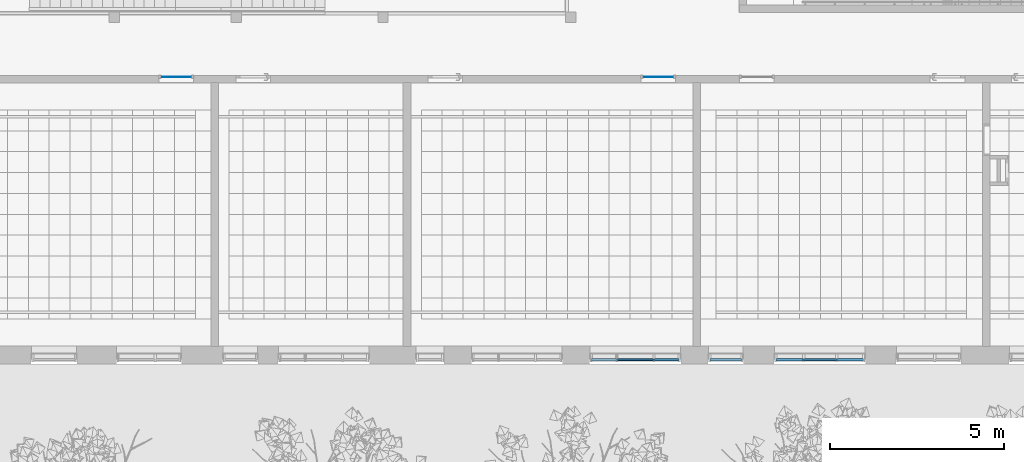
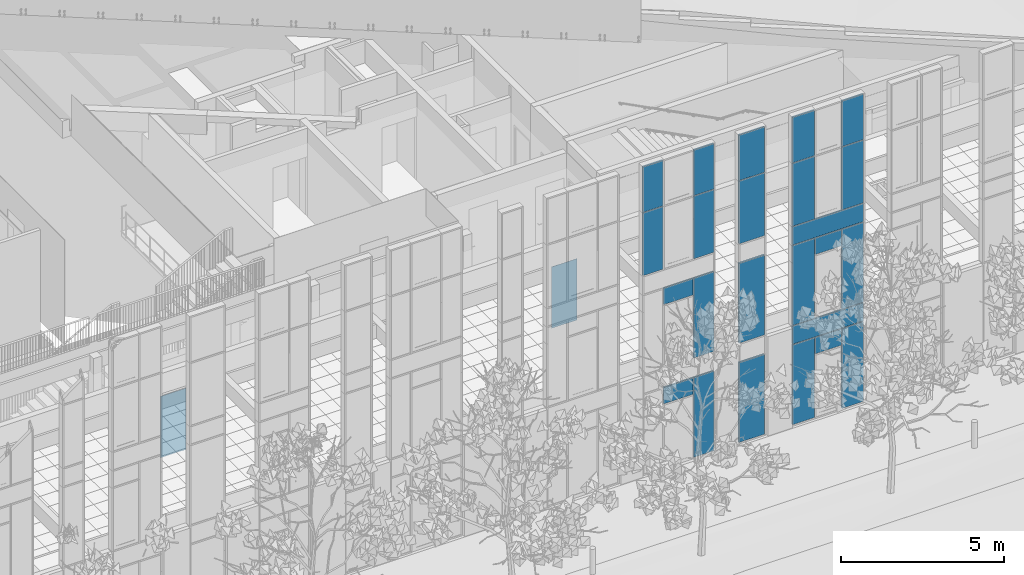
# One storey, part 54 of 246: 26 plates, 5 elements without a shape of their own.
"""IFC2X3 building model written with IfcOpenShell, lengths in millimetres."""

from ifc_helpers import new_model, entity, si_unit, converted_unit, derived_unit, money_unit, direction, frame, origin_with_axes, place, context, subcontext, project, spatial, faceted_brep, source, transform, mapped, material, type_object, element, aggregate, save


model = new_model("IFC2X3")

# Units and contexts
model_context = context("Model", 3, precision=0.01, world=origin_with_axes(), true_north=direction((0.0, 1.0)))
body_context = subcontext(model_context, "Body", "Model", "MODEL_VIEW")
ifc_project = project(units=[si_unit("LENGTHUNIT", "METRE", prefix="MILLI"), si_unit("AREAUNIT", "SQUARE_METRE"), si_unit("VOLUMEUNIT", "CUBIC_METRE"), converted_unit("PLANEANGLEUNIT", "DEGREE", entity("IfcPlaneAngleMeasure", 0.0174532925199), si_unit("PLANEANGLEUNIT", "RADIAN"), dimensions=[0, 0, 0, 0, 0, 0, 0]), si_unit("SOLIDANGLEUNIT", "STERADIAN"), money_unit("EUR"), converted_unit("TIMEUNIT", "Year", entity("IfcTimeMeasure", 31556926.0), si_unit("TIMEUNIT", "SECOND"), dimensions=[0, 0, 1, 0, 0, 0, 0]), si_unit("MASSUNIT", "GRAM", prefix="KILO"), si_unit("THERMODYNAMICTEMPERATUREUNIT", "DEGREE_CELSIUS"), si_unit("LUMINOUSINTENSITYUNIT", "LUMEN"), si_unit("ENERGYUNIT", "JOULE", prefix="MEGA"), derived_unit("THERMALCONDUCTANCEUNIT", [(si_unit("POWERUNIT", "WATT"), 1), (si_unit("LENGTHUNIT", "METRE"), -1), (si_unit("THERMODYNAMICTEMPERATUREUNIT", "KELVIN"), -1)]), derived_unit("SPECIFICHEATCAPACITYUNIT", [(si_unit("ENERGYUNIT", "JOULE"), 1), (si_unit("MASSUNIT", "GRAM", prefix="KILO"), -1), (si_unit("THERMODYNAMICTEMPERATUREUNIT", "KELVIN"), -1)]), derived_unit("MASSDENSITYUNIT", [(si_unit("MASSUNIT", "GRAM", prefix="KILO"), 1), (si_unit("VOLUMEUNIT", "CUBIC_METRE"), -1)])], contexts=[model_context])

# Site, building, storey
site_placement = place(None, origin_with_axes())
site = spatial("IfcSite", under=ifc_project, at=site_placement, Name="L.Koidula tn 11b", CompositionType="ELEMENT")
building_placement = place(site_placement, origin_with_axes())
building = spatial("IfcBuilding", under=site, at=building_placement, Name="Rakvere Riigigümnaasium", CompositionType="ELEMENT")
storey_placement = place(building_placement, origin_with_axes())
storey = spatial("IfcBuildingStorey", under=building, at=storey_placement, Name="1.korrus 0,00", CompositionType="ELEMENT", Elevation=0.0)

# Curtain wall, plates
curtain_wall_type = type_object("IfcCurtainWallType", Name="Curtain Wall Type", PredefinedType="NOTDEFINED")
curtain_wall_1_placement = place(storey_placement, frame((78309.9973345, 5111.43278481, -1.61944633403e-05), z_axis=(0.0, 0.0, 1.0), x_axis=(1.0, 0.0, 0.0)))
curtain_wall_1 = element("IfcCurtainWall", 1, at=curtain_wall_1_placement, inside=storey, type_object=curtain_wall_type, Name="KLF-05-3A")
ifc_material_1 = material(Name="Klaaspakett 3x ribikardinatega")
plate_type_1 = type_object("IfcPlateType", Name="Distinct Panel 926 x 616 x 65", PredefinedType="CURTAIN_PANEL")
shared_shape_1 = source(origin_with_axes(), body_context, "Body", "Brep", [
    faceted_brep([(938.00000149, 628.000002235, -32.5), (11.9999985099, 628.000002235, -32.5), (11.9999985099, 628.000002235, 32.5), (938.00000149, 628.000002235, 32.5), (938.00000149, 11.9999985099, -32.5), (11.9999985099, 11.9999985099, -32.5), (11.9999985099, 11.9999985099, 32.5), (938.00000149, 11.9999985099, 32.5)], [[[0, 1, 2, 3]], [[0, 4, 5, 1]], [[1, 5, 6, 2]], [[3, 2, 6, 7]], [[4, 0, 3, 7]], [[5, 4, 7, 6]]]),
])
plate_1_placement = place(curtain_wall_1_placement, frame((0.0, 0.0, 2720.0), z_axis=(0.0, 0.0, 1.0), x_axis=(-0.999999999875, 1.58166009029e-05, 0.0)))
plate_1 = element("IfcPlate", 2, at=plate_1_placement, type_object=plate_type_1, material=ifc_material_1, Name="KLF-05-3A-Klaasid", ObjectType="CURTAIN_PANEL", context=body_context, shape_type="MappedRepresentation", body=[
    mapped(shared_shape_1, transform((475.0, 0.0, -320.0), x_axis=(-1.0, 0.0, 0.0), y_axis=(0.0, 0.0, 1.0), z_axis=(0.0, 1.0, 0.0))),
])
plate_2_placement = place(curtain_wall_1_placement, frame((0.0, 0.0, 6440.0), z_axis=(0.0, 0.0, 1.0), x_axis=(-0.999999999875, 1.58166009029e-05, 0.0)))
plate_2 = element("IfcPlate", 3, at=plate_2_placement, type_object=plate_type_1, material=ifc_material_1, Name="KLF-05-3A-Klaasid", ObjectType="CURTAIN_PANEL", context=body_context, shape_type="MappedRepresentation", body=[
    mapped(shared_shape_1, transform((475.0, 0.0, -320.0), x_axis=(-1.0, 0.0, 0.0), y_axis=(0.0, 0.0, 1.0), z_axis=(0.0, 1.0, 0.0))),
])
ifc_material_2 = material(Name="Klaaspakett- taustvärvitud klaas 3x")
plate_type_2 = type_object("IfcPlateType", Name="788 x 681 x 54", PredefinedType="CURTAIN_PANEL")
shared_shape_2 = source(origin_with_axes(), body_context, "Body", "Brep", [
    faceted_brep([(2542.99946897, 693.000015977, -27.0), (1775.00001496, 693.000015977, -27.0), (1775.00001496, 693.000015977, 27.0), (2542.99946897, 693.000015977, 27.0), (2542.99946897, 11.9999992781, -27.0), (1775.00001496, 11.9999992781, -27.0), (825.000008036, 11.9999992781, -27.0), (36.9999913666, 11.9999992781, -27.0), (36.9999913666, 693.000015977, -27.0), (825.000008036, 693.000015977, -27.0), (825.000008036, 693.000015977, 27.0), (36.9999913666, 693.000015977, 27.0), (36.9999913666, 11.9999992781, 27.0), (825.000008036, 11.9999992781, 27.0), (1775.00001496, 11.9999992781, 27.0), (2542.99946897, 11.9999992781, 27.0)], [[[0, 1, 2, 3]], [[0, 4, 5, 6, 7, 8, 9, 1]], [[1, 9, 10, 2]], [[3, 2, 10, 11, 12, 13, 14, 15]], [[4, 0, 3, 15]], [[5, 4, 15, 14]], [[6, 5, 14, 13]], [[7, 6, 13, 12]], [[8, 7, 12, 11]], [[9, 8, 11, 10]]]),
])
plate_3_placement = place(curtain_wall_1_placement, frame((-5.00013491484, 7.90851375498e-05, 7112.5), z_axis=(0.0, 0.0, 1.0), x_axis=(-0.999999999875, 1.58166009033e-05, 0.0)))
plate_3 = element("IfcPlate", 4, at=plate_3_placement, type_object=plate_type_2, material=ifc_material_2, Name="KLF-05-3A-Klaasid", ObjectType="CURTAIN_PANEL", context=body_context, shape_type="MappedRepresentation", body=[
    mapped(shared_shape_2, transform((1294.99986508, 0.0, -352.5), x_axis=(-1.0, 0.0, 0.0), y_axis=(0.0, 0.0, 1.0), z_axis=(0.0, 1.0, 0.0))),
])
plate_4_placement = place(curtain_wall_1_placement, frame((-5.00013491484, 7.90851375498e-05, 3392.5), z_axis=(0.0, 0.0, 1.0), x_axis=(-0.999999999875, 1.58166009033e-05, 0.0)))
plate_4 = element("IfcPlate", 5, at=plate_4_placement, type_object=plate_type_2, material=ifc_material_2, Name="KLF-05-3A-Klaasid", ObjectType="CURTAIN_PANEL", context=body_context, shape_type="MappedRepresentation", body=[
    mapped(shared_shape_2, transform((1294.99986508, 0.0, -352.5), x_axis=(-1.0, 0.0, 0.0), y_axis=(0.0, 0.0, 1.0), z_axis=(0.0, 1.0, 0.0))),
])

curtain_wall_2_placement = place(storey_placement, frame((72896.908541, 5111.45334637, -8.09717227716e-06), z_axis=(0.0, 0.0, 1.0), x_axis=(1.0, 0.0, 0.0)))
curtain_wall_2 = element("IfcCurtainWall", 6, at=curtain_wall_2_placement, inside=storey, type_object=curtain_wall_type, Name="KLF-05-3B")
plate_type_3 = type_object("IfcPlateType", Name="8 x 616 x 54", PredefinedType="CURTAIN_PANEL")
shared_shape_3 = source(origin_with_axes(), body_context, "Body", "Brep", [
    faceted_brep([(1058.00000089, 628.000001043, -27.0), (19.5432752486, 628.000001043, -27.0), (19.5432752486, 628.000001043, 27.0), (1058.00000089, 628.000001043, 27.0), (1058.00000089, 11.9999991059, -27.0), (19.5432752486, 11.9999991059, -27.0), (11.9999991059, 11.9999991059, -27.0), (11.9999991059, 628.000001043, -27.0), (11.9999991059, 628.000001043, 27.0), (11.9999991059, 11.9999991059, 27.0), (19.5432752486, 11.9999991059, 27.0), (1058.00000089, 11.9999991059, 27.0)], [[[0, 1, 2, 3]], [[0, 4, 5, 6, 7, 1]], [[1, 7, 8, 2]], [[3, 2, 8, 9, 10, 11]], [[4, 0, 3, 11]], [[5, 4, 11, 10]], [[6, 5, 10, 9]], [[7, 6, 9, 8]]]),
])
plate_5_placement = place(curtain_wall_2_placement, frame((-68.7275395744, 0.0, 2720.0), z_axis=(0.0, 0.0, 1.0), x_axis=(-1.0, 0.0, 0.0)))
plate_5 = element("IfcPlate", 7, at=plate_5_placement, type_object=plate_type_3, material=ifc_material_1, Name="KLF-58", ObjectType="CURTAIN_PANEL", context=body_context, shape_type="MappedRepresentation", body=[
    mapped(shared_shape_3, transform((363.181089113, 0.0, -320.0), x_axis=(-1.0, 0.0, 0.0), y_axis=(0.0, 0.0, 1.0), z_axis=(0.0, 1.0, 0.0))),
])
plate_6_placement = place(curtain_wall_2_placement, frame((-68.7275395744, 0.0, 6440.0), z_axis=(0.0, 0.0, 1.0), x_axis=(-1.0, 0.0, 0.0)))
plate_6 = element("IfcPlate", 8, at=plate_6_placement, type_object=plate_type_3, material=ifc_material_1, Name="KLF-71", ObjectType="CURTAIN_PANEL", context=body_context, shape_type="MappedRepresentation", body=[
    mapped(shared_shape_3, transform((363.181089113, 0.0, -320.0), x_axis=(-1.0, 0.0, 0.0), y_axis=(0.0, 0.0, 1.0), z_axis=(0.0, 1.0, 0.0))),
])

# Plate
plate_type_4 = type_object("IfcPlateType", Name="Distinct Panel 776 x 2351 x 65", PredefinedType="CURTAIN_PANEL")
shared_shape_4 = source(origin_with_axes(), body_context, "Body", "Brep", [
    faceted_brep([(813.000005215, 2363.00000149, -32.5), (36.9999836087, 2363.00000149, -32.5), (36.9999836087, 2363.00000149, 32.5), (813.000005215, 2363.00000149, 32.5), (813.000005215, 11.9999985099, -32.5), (36.9999836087, 11.9999985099, -32.5), (36.9999836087, 11.9999985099, 32.5), (813.000005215, 11.9999985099, 32.5)], [[[0, 1, 2, 3]], [[0, 4, 5, 1]], [[1, 5, 6, 2]], [[3, 2, 6, 7]], [[4, 0, 3, 7]], [[5, 4, 7, 6]]]),
])
plate_7_placement = place(curtain_wall_1_placement, frame((-887.499999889, 0.0140372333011, 8652.5), z_axis=(0.0, 0.0, 1.0), x_axis=(-0.999999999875, 1.58166009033e-05, 0.0)))
plate_7 = element("IfcPlate", 9, at=plate_7_placement, type_object=plate_type_4, material=ifc_material_1, Name="KLF-05-3A-Klaasid", ObjectType="CURTAIN_PANEL", context=body_context, shape_type="MappedRepresentation", body=[
    mapped(shared_shape_4, transform((412.5, 0.0, -1187.5), x_axis=(-1.0, 0.0, 0.0), y_axis=(0.0, 0.0, 1.0), z_axis=(0.0, 1.0, 0.0))),
])

plate_type_5 = type_object("IfcPlateType", Name="Distinct Panel 776 x 628 x 65", PredefinedType="CURTAIN_PANEL")
shared_shape_5 = source(origin_with_axes(), body_context, "Body", "Brep", [
    faceted_brep([(813.000010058, 3002.99998659, -32.5), (36.999981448, 3002.99998659, -32.5), (36.999981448, 3002.99998659, 32.5), (813.000010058, 3002.99998659, 32.5), (813.000010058, 2375.00001855, -32.5), (813.000010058, 12.0000134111, -32.5), (36.999981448, 12.0000134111, -32.5), (36.999981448, 2375.00001855, -32.5), (36.999981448, 2375.00001855, 32.5), (36.999981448, 12.0000134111, 32.5), (813.000010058, 12.0000134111, 32.5), (813.000010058, 2375.00001855, 32.5)], [[[0, 1, 2, 3]], [[0, 4, 5, 6, 7, 1]], [[1, 7, 8, 2]], [[3, 2, 8, 9, 10, 11]], [[4, 0, 3, 11]], [[5, 4, 11, 10]], [[6, 5, 10, 9]], [[7, 6, 9, 8]]]),
])
plate_8_placement = place(curtain_wall_1_placement, frame((-887.499999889, 0.0140372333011, 5541.66666667), z_axis=(0.0, 0.0, 1.0), x_axis=(-0.999999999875, 1.58166009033e-05, 0.0)))
plate_8 = element("IfcPlate", 10, at=plate_8_placement, type_object=plate_type_5, material=ifc_material_1, Name="KLF-05-3A-Klaasid", ObjectType="CURTAIN_PANEL", context=body_context, shape_type="MappedRepresentation", body=[
    mapped(shared_shape_5, transform((412.5, 0.0, -1796.66666667), x_axis=(-1.0, 0.0, 0.0), y_axis=(0.0, 0.0, 1.0), z_axis=(0.0, 1.0, 0.0))),
])

plate_type_6 = type_object("IfcPlateType", Name="Distinct Panel 756 x 628 x 65", PredefinedType="CURTAIN_PANEL")
shared_shape_6 = source(origin_with_axes(), body_context, "Body", "Brep", [
    faceted_brep([(767.999465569, 3002.99998659, -32.5), (12.0000134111, 3002.99998659, -32.5), (12.0000134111, 3002.99998659, 32.5), (767.999465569, 3002.99998659, 32.5), (767.999465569, 2375.00001855, -32.5), (767.999465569, 12.0000134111, -32.5), (12.0000134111, 12.0000134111, -32.5), (12.0000134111, 2375.00001855, -32.5), (12.0000134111, 2375.00001855, 32.5), (12.0000134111, 12.0000134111, 32.5), (767.999465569, 12.0000134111, 32.5), (767.999465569, 2375.00001855, 32.5)], [[[0, 1, 2, 3]], [[0, 4, 5, 6, 7, 1]], [[1, 7, 8, 2]], [[3, 2, 8, 9, 10, 11]], [[4, 0, 3, 11]], [[5, 4, 11, 10]], [[6, 5, 10, 9]], [[7, 6, 9, 8]]]),
])
plate_9_placement = place(curtain_wall_1_placement, frame((877.499730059, -0.0138790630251, 5541.66666667), z_axis=(0.0, 0.0, 1.0), x_axis=(-0.999999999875, 1.58166009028e-05, 0.0)))
plate_9 = element("IfcPlate", 11, at=plate_9_placement, type_object=plate_type_6, material=ifc_material_1, Name="KLF-05-3A-Klaasid", ObjectType="CURTAIN_PANEL", context=body_context, shape_type="MappedRepresentation", body=[
    mapped(shared_shape_6, transform((402.499730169, 0.0, -1796.66666667), x_axis=(-1.0, 0.0, 0.0), y_axis=(0.0, 0.0, 1.0), z_axis=(0.0, 1.0, 0.0))),
])

shared_shape_7 = source(origin_with_axes(), body_context, "Body", "Brep", [
    faceted_brep([(813.000002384, 3028.00000715, -32.5), (37.0000119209, 3028.00000715, -32.5), (37.0000119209, 3028.00000715, 32.5), (813.000002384, 3028.00000715, 32.5), (813.000002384, 2400.00001907, -32.5), (813.000002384, 37.0000119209, -32.5), (37.0000119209, 37.0000119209, -32.5), (37.0000119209, 2400.00001907, -32.5), (37.0000119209, 2400.00001907, 32.5), (37.0000119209, 37.0000119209, 32.5), (813.000002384, 37.0000119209, 32.5), (813.000002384, 2400.00001907, 32.5)], [[[0, 1, 2, 3]], [[0, 4, 5, 6, 7, 1]], [[1, 7, 8, 2]], [[3, 2, 8, 9, 10, 11]], [[4, 0, 3, 11]], [[5, 4, 11, 10]], [[6, 5, 10, 9]], [[7, 6, 9, 8]]]),
])
plate_10_placement = place(curtain_wall_1_placement, frame((-887.499999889, 0.0140372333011, 1813.33333333), z_axis=(0.0, 0.0, 1.0), x_axis=(-0.999999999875, 1.58166009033e-05, 0.0)))
plate_10 = element("IfcPlate", 12, at=plate_10_placement, type_object=plate_type_5, material=ifc_material_1, Name="KLF-05-3A-Klaasid", ObjectType="CURTAIN_PANEL", context=body_context, shape_type="MappedRepresentation", body=[
    mapped(shared_shape_7, transform((412.5, 0.0, -1813.33333333), x_axis=(-1.0, 0.0, 0.0), y_axis=(0.0, 0.0, 1.0), z_axis=(0.0, 1.0, 0.0))),
])

shared_shape_8 = source(origin_with_axes(), body_context, "Body", "Brep", [
    faceted_brep([(767.999451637, 3028.00000715, -32.5), (11.9999928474, 3028.00000715, -32.5), (11.9999928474, 3028.00000715, 32.5), (767.999451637, 3028.00000715, 32.5), (767.999451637, 2400.00001907, -32.5), (767.999451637, 37.0000119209, -32.5), (11.9999928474, 37.0000119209, -32.5), (11.9999928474, 2400.00001907, -32.5), (11.9999928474, 2400.00001907, 32.5), (11.9999928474, 37.0000119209, 32.5), (767.999451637, 37.0000119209, 32.5), (767.999451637, 2400.00001907, 32.5)], [[[0, 1, 2, 3]], [[0, 4, 5, 6, 7, 1]], [[1, 7, 8, 2]], [[3, 2, 8, 9, 10, 11]], [[4, 0, 3, 11]], [[5, 4, 11, 10]], [[6, 5, 10, 9]], [[7, 6, 9, 8]]]),
])
plate_11_placement = place(curtain_wall_1_placement, frame((877.499730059, -0.0138790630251, 1813.33333333), z_axis=(0.0, 0.0, 1.0), x_axis=(-0.999999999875, 1.58166009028e-05, 0.0)))
plate_11 = element("IfcPlate", 13, at=plate_11_placement, type_object=plate_type_6, material=ifc_material_1, Name="KLF-05-3A-Klaasid", ObjectType="CURTAIN_PANEL", context=body_context, shape_type="MappedRepresentation", body=[
    mapped(shared_shape_8, transform((402.499730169, 0.0, -1813.33333333), x_axis=(-1.0, 0.0, 0.0), y_axis=(0.0, 0.0, 1.0), z_axis=(0.0, 1.0, 0.0))),
])

plate_type_7 = type_object("IfcPlateType", Name="Distinct Panel 756 x 2351 x 65", PredefinedType="CURTAIN_PANEL")
shared_shape_9 = source(origin_with_axes(), body_context, "Body", "Brep", [
    faceted_brep([(767.999479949, 2363.00000149, -32.5), (11.9999985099, 2363.00000149, -32.5), (11.9999985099, 2363.00000149, 32.5), (767.999479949, 2363.00000149, 32.5), (767.999444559, 11.9999985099, -32.5), (11.9999985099, 11.9999985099, -32.5), (11.9999985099, 11.9999985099, 32.5), (767.999444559, 11.9999985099, 32.5)], [[[0, 1, 2, 3]], [[0, 4, 5, 1]], [[1, 5, 6, 2]], [[3, 2, 6, 7]], [[4, 0, 3, 7]], [[5, 4, 7, 6]]]),
])
plate_12_placement = place(curtain_wall_1_placement, frame((877.499731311, -0.0138790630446, 8652.5), z_axis=(0.0, 0.0, 1.0), x_axis=(-0.999999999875, 1.58166009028e-05, 0.0)))
plate_12 = element("IfcPlate", 14, at=plate_12_placement, type_object=plate_type_7, material=ifc_material_1, Name="KLF-05-4A-Klaasid", ObjectType="CURTAIN_PANEL", context=body_context, shape_type="MappedRepresentation", body=[
    mapped(shared_shape_9, transform((402.499731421, 0.0, -1187.5), x_axis=(-1.0, 0.0, 0.0), y_axis=(0.0, 0.0, 1.0), z_axis=(0.0, 1.0, 0.0))),
])

plate_type_8 = type_object("IfcPlateType", Name="Distinct Panel 756 x 1701 x 65", PredefinedType="CURTAIN_PANEL")
shared_shape_10 = source(origin_with_axes(), body_context, "Body", "Brep", [
    faceted_brep([(767.999542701, 1713.0000343, -32.5), (12.0000099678, 1713.0000343, -32.5), (12.0000099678, 1713.0000343, 32.5), (767.999542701, 1713.0000343, 32.5), (767.99946447, 12.0000099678, -32.5), (12.0000099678, 12.0000099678, -32.5), (12.0000099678, 12.0000099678, 32.5), (767.99946447, 12.0000099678, 32.5)], [[[0, 1, 2, 3]], [[0, 4, 5, 1]], [[1, 5, 6, 2]], [[3, 2, 6, 7]], [[4, 0, 3, 7]], [[5, 4, 7, 6]]]),
])
plate_13_placement = place(curtain_wall_1_placement, frame((877.499749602, -0.0138790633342, 10715.0000206), z_axis=(0.0, 0.0, 1.0), x_axis=(-0.999999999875, 1.58166009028e-05, 0.0)))
plate_13 = element("IfcPlate", 15, at=plate_13_placement, type_object=plate_type_8, material=ifc_material_1, Name="KLF-05-8A-Klaasid", ObjectType="CURTAIN_PANEL", context=body_context, shape_type="MappedRepresentation", body=[
    mapped(shared_shape_10, transform((402.499749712, 0.0, -875.000020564), x_axis=(-1.0, 0.0, 0.0), y_axis=(0.0, 0.0, 1.0), z_axis=(0.0, 1.0, 0.0))),
])

plate_type_9 = type_object("IfcPlateType", Name="Distinct Panel 776 x 1701 x 65", PredefinedType="CURTAIN_PANEL")
shared_shape_11 = source(origin_with_axes(), body_context, "Body", "Brep", [
    faceted_brep([(812.999990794, 1713.0000343, -32.5), (37.00000683, 1713.0000343, -32.5), (37.00000683, 1713.0000343, 32.5), (812.999990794, 1713.0000343, 32.5), (812.999990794, 12.0000099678, -32.5), (37.00000683, 12.0000099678, -32.5), (37.00000683, 12.0000099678, 32.5), (812.999990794, 12.0000099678, 32.5)], [[[0, 1, 2, 3]], [[0, 4, 5, 1]], [[1, 5, 6, 2]], [[3, 2, 6, 7]], [[4, 0, 3, 7]], [[5, 4, 7, 6]]]),
])
plate_14_placement = place(curtain_wall_1_placement, frame((-887.499999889, 0.0140372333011, 10715.0000206), z_axis=(0.0, 0.0, 1.0), x_axis=(-0.999999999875, 1.58166009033e-05, 0.0)))
plate_14 = element("IfcPlate", 16, at=plate_14_placement, type_object=plate_type_9, material=ifc_material_1, Name="KLF-05-0A-Klaasid", ObjectType="CURTAIN_PANEL", context=body_context, shape_type="MappedRepresentation", body=[
    mapped(shared_shape_11, transform((412.5, 0.0, -875.000020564), x_axis=(-1.0, 0.0, 0.0), y_axis=(0.0, 0.0, 1.0), z_axis=(0.0, 1.0, 0.0))),
])

aggregate(curtain_wall_1, [plate_1, plate_3, plate_2, plate_4, plate_7, plate_8, plate_9, plate_10, plate_11, plate_12, plate_13, plate_14])

ifc_material_3 = material(Name="Klaaspakett 3x")
plate_type_10 = type_object("IfcPlateType", Name="Distinct Panel 706 x 828 x 65", PredefinedType="CURTAIN_PANEL")
shared_shape_12 = source(origin_with_axes(), body_context, "Body", "Brep", [
    faceted_brep([(717.999934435, 2363.00000149, -32.5), (11.9999985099, 2363.00000149, -32.5), (11.9999985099, 2363.00000149, 32.5), (717.999934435, 2363.00000149, 32.5), (717.999969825, 11.9999985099, -32.5), (11.9999985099, 11.9999985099, -32.5), (11.9999985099, 1534.99999814, -32.5), (11.9999985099, 1534.99999814, 32.5), (11.9999985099, 11.9999985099, 32.5), (717.999969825, 11.9999985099, 32.5)], [[[0, 1, 2, 3]], [[0, 4, 5, 6, 1]], [[1, 6, 7, 2]], [[3, 2, 7, 8, 9]], [[4, 0, 3, 9]], [[5, 4, 9, 8]], [[6, 5, 8, 7]]]),
])
plate_15_placement = place(curtain_wall_2_placement, frame((940.091351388, 0.0, 8722.0), z_axis=(0.0, 0.0, 1.0), x_axis=(-1.0, 0.0, 0.0)))
plate_15 = element("IfcPlate", 17, at=plate_15_placement, type_object=plate_type_10, material=ifc_material_3, Name="KLF-05-2A-Klaasid", ObjectType="CURTAIN_PANEL", context=body_context, shape_type="MappedRepresentation", body=[
    mapped(shared_shape_12, transform((301.999980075, 0.0, -1257.0), x_axis=(-1.0, 0.0, 0.0), y_axis=(0.0, 0.0, 1.0), z_axis=(0.0, 1.0, 0.0))),
])

plate_type_11 = type_object("IfcPlateType", Name="706 x 628 x 54", PredefinedType="CURTAIN_PANEL")
shared_shape_13 = source(origin_with_axes(), body_context, "Body", "Brep", [
    faceted_brep([(717.999957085, 3028.00000715, -27.0), (11.9999928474, 3028.00000715, -27.0), (11.9999928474, 3028.00000715, 27.0), (717.999957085, 3028.00000715, 27.0), (717.999911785, 2400.00001907, -27.0), (717.999957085, 37.0000119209, -27.0), (11.9999928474, 37.0000119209, -27.0), (11.9999928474, 2400.00001907, -27.0), (11.9999928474, 2400.00001907, 27.0), (11.9999928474, 37.0000119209, 27.0), (717.999957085, 37.0000119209, 27.0), (717.999911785, 2400.00001907, 27.0)], [[[0, 1, 2, 3]], [[0, 4, 5, 6, 7, 1]], [[1, 7, 8, 2]], [[3, 2, 8, 9, 10, 11]], [[4, 0, 3, 11]], [[5, 4, 11, 10]], [[6, 5, 10, 9]], [[7, 6, 9, 8]]]),
])
plate_16_placement = place(curtain_wall_2_placement, frame((1015.59134147, 0.0, 1813.33333333), z_axis=(0.0, 0.0, 1.0), x_axis=(-1.0, 0.0, 0.0)))
plate_16 = element("IfcPlate", 18, at=plate_16_placement, type_object=plate_type_11, material=ifc_material_1, Name="KLF-59", ObjectType="CURTAIN_PANEL", context=body_context, shape_type="MappedRepresentation", body=[
    mapped(shared_shape_13, transform((377.499970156, 0.0, -1813.33333333), x_axis=(-1.0, 0.0, 0.0), y_axis=(0.0, 0.0, 1.0), z_axis=(0.0, 1.0, 0.0))),
])

shared_shape_14 = source(origin_with_axes(), body_context, "Body", "Brep", [
    faceted_brep([(717.999978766, 3002.99998659, -27.0), (12.0000134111, 3002.99998659, -27.0), (12.0000134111, 3002.99998659, 27.0), (717.999978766, 3002.99998659, 27.0), (717.999888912, 2375.00001855, -27.0), (717.999978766, 12.0000134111, -27.0), (12.0000134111, 12.0000134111, -27.0), (12.0000134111, 2375.00001855, -27.0), (12.0000134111, 2375.00001855, 27.0), (12.0000134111, 12.0000134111, 27.0), (717.999978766, 12.0000134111, 27.0), (717.999888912, 2375.00001855, 27.0)], [[[0, 1, 2, 3]], [[0, 4, 5, 6, 7, 1]], [[1, 7, 8, 2]], [[3, 2, 8, 9, 10, 11]], [[4, 0, 3, 11]], [[5, 4, 11, 10]], [[6, 5, 10, 9]], [[7, 6, 9, 8]]]),
])
plate_17_placement = place(curtain_wall_2_placement, frame((1015.59134147, 0.0, 5541.66666667), z_axis=(0.0, 0.0, 1.0), x_axis=(-1.0, 0.0, 0.0)))
plate_17 = element("IfcPlate", 19, at=plate_17_placement, type_object=plate_type_11, material=ifc_material_1, Name="KLF-63", ObjectType="CURTAIN_PANEL", context=body_context, shape_type="MappedRepresentation", body=[
    mapped(shared_shape_14, transform((377.499970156, 0.0, -1796.66666667), x_axis=(-1.0, 0.0, 0.0), y_axis=(0.0, 0.0, 1.0), z_axis=(0.0, 1.0, 0.0))),
])

plate_type_12 = type_object("IfcPlateType", Name="Distinct Panel 706 x 1701 x 65", PredefinedType="CURTAIN_PANEL")
shared_shape_15 = source(origin_with_axes(), body_context, "Body", "Brep", [
    faceted_brep([(717.999940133, 1713.0000343, -32.5), (12.0000099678, 1713.0000343, -32.5), (12.0000099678, 1713.0000343, 32.5), (717.999940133, 1713.0000343, 32.5), (717.999940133, 12.0000099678, -32.5), (12.0000099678, 12.0000099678, -32.5), (12.0000099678, 12.0000099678, 32.5), (717.999940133, 12.0000099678, 32.5)], [[[0, 1, 2, 3]], [[0, 4, 5, 1]], [[1, 5, 6, 2]], [[3, 2, 6, 7]], [[4, 0, 3, 7]], [[5, 4, 7, 6]]]),
])
plate_18_placement = place(curtain_wall_2_placement, frame((1015.59134099, 0.0, 10715.0000206), z_axis=(0.0, 0.0, 1.0), x_axis=(-1.0, 0.0, 0.0)))
plate_18 = element("IfcPlate", 20, at=plate_18_placement, type_object=plate_type_12, material=ifc_material_3, Name="KLF-05-6A-Klaasid", ObjectType="CURTAIN_PANEL", context=body_context, shape_type="MappedRepresentation", body=[
    mapped(shared_shape_15, transform((377.499969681, 0.0, -875.000020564), x_axis=(-1.0, 0.0, 0.0), y_axis=(0.0, 0.0, 1.0), z_axis=(0.0, 1.0, 0.0))),
])

shared_shape_16 = source(origin_with_axes(), body_context, "Body", "Brep", [
    faceted_brep([(788.000002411, 1713.0000343, -32.5), (81.9997332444, 1713.0000343, -32.5), (81.9997332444, 1713.0000343, 32.5), (788.000002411, 1713.0000343, 32.5), (788.000002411, 12.0000099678, -32.5), (81.9997332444, 12.0000099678, -32.5), (81.9997332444, 12.0000099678, 32.5), (788.000002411, 12.0000099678, 32.5)], [[[0, 1, 2, 3]], [[0, 4, 5, 1]], [[1, 5, 6, 2]], [[3, 2, 6, 7]], [[4, 0, 3, 7]], [[5, 4, 7, 6]]]),
])
plate_19_placement = place(curtain_wall_2_placement, frame((-809.408761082, 0.0, 10715.0000206), z_axis=(0.0, 0.0, 1.0), x_axis=(-1.0, 0.0, 0.0)))
plate_19 = element("IfcPlate", 21, at=plate_19_placement, type_object=plate_type_12, material=ifc_material_3, Name="KLF-05-3A-Klaasid", ObjectType="CURTAIN_PANEL", context=body_context, shape_type="MappedRepresentation", body=[
    mapped(shared_shape_16, transform((422.499867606, 0.0, -875.000020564), x_axis=(-1.0, 0.0, 0.0), y_axis=(0.0, 0.0, 1.0), z_axis=(0.0, 1.0, 0.0))),
])

plate_type_13 = type_object("IfcPlateType", Name="Distinct Panel 706 x 2351 x 65", PredefinedType="CURTAIN_PANEL")
shared_shape_17 = source(origin_with_axes(), body_context, "Body", "Brep", [
    faceted_brep([(788.000017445, 2363.00000149, -32.5), (81.9997276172, 2363.00000149, -32.5), (81.9997276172, 2363.00000149, 32.5), (788.000017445, 2363.00000149, 32.5), (788.000017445, 11.9999985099, -32.5), (81.9997276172, 11.9999985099, -32.5), (81.9997276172, 11.9999985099, 32.5), (788.000017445, 11.9999985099, 32.5)], [[[0, 1, 2, 3]], [[0, 4, 5, 1]], [[1, 5, 6, 2]], [[3, 2, 6, 7]], [[4, 0, 3, 7]], [[5, 4, 7, 6]]]),
])
plate_20_placement = place(curtain_wall_2_placement, frame((-809.408756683, 0.0, 8652.5), z_axis=(0.0, 0.0, 1.0), x_axis=(-1.0, 0.0, 0.0)))
plate_20 = element("IfcPlate", 22, at=plate_20_placement, type_object=plate_type_13, material=ifc_material_3, Name="KLF-05-2A-Klaasid", ObjectType="CURTAIN_PANEL", context=body_context, shape_type="MappedRepresentation", body=[
    mapped(shared_shape_17, transform((422.499872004, 0.0, -1187.5), x_axis=(-1.0, 0.0, 0.0), y_axis=(0.0, 0.0, 1.0), z_axis=(0.0, 1.0, 0.0))),
])

aggregate(curtain_wall_2, [plate_5, plate_15, plate_16, plate_6, plate_17, plate_18, plate_19, plate_20])

# Curtain wall, plate
curtain_wall_3_placement = place(storey_placement, frame((59810.0162357, 13240.4508952, 0.0), z_axis=(0.0, 0.0, 1.0), x_axis=(1.0, 0.0, 0.0)))
curtain_wall_3 = element("IfcCurtainWall", 23, at=curtain_wall_3_placement, inside=storey, type_object=curtain_wall_type, Name="SKLF-07")
ifc_material_4 = material(Name="VKR-05_Klaas")
plate_type_14 = type_object("IfcPlateType", Name="Distinct Panel 900 x 2300 x 10", PredefinedType="CURTAIN_PANEL")
shared_shape_18 = source(origin_with_axes(), body_context, "Body", "Brep", [
    faceted_brep([(-950.019788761, 2350.0, -11.0), (-950.019788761, 2350.0, 1.0), (-50.0197887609, 2350.0, 1.0), (-50.0197887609, 2350.0, -11.0), (-950.019788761, 50.0, -11.0), (-950.019788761, 50.0, 1.0), (-50.0197887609, 50.0, 1.0), (-50.0197887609, 50.0, -11.0)], [[[0, 1, 2, 3]], [[4, 5, 1, 0]], [[1, 5, 6, 2]], [[3, 2, 6, 7]], [[0, 3, 7, 4]], [[7, 6, 5, 4]]]),
])
plate_21_placement = place(curtain_wall_3_placement, frame((0.0, 0.0, 1200.0), z_axis=(0.0, 0.0, 1.0), x_axis=(-1.0, 0.0, 0.0)))
plate_21 = element("IfcPlate", 24, at=plate_21_placement, type_object=plate_type_14, material=ifc_material_4, Name="SKLF-17-klaas", ObjectType="CURTAIN_PANEL", context=body_context, shape_type="MappedRepresentation", body=[
    mapped(shared_shape_18, transform((500.019791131, 0.0, -1200.0), x_axis=(1.0, 0.0, 0.0), y_axis=(0.0, 0.0, 1.0), z_axis=(0.0, -1.0, 0.0))),
])
aggregate(curtain_wall_3, [plate_21])

curtain_wall_4_placement = place(storey_placement, frame((73660.0150839, 13240.4508952, 0.0), z_axis=(0.0, 0.0, 1.0), x_axis=(1.0, 0.0, 0.0)))
curtain_wall_4 = element("IfcCurtainWall", 25, at=curtain_wall_4_placement, inside=storey, type_object=curtain_wall_type, Name="SKLF-08")
plate_22_placement = place(curtain_wall_4_placement, frame((0.0, 0.0, 1200.0), z_axis=(0.0, 0.0, 1.0), x_axis=(-1.0, 0.0, 0.0)))
plate_22 = element("IfcPlate", 26, at=plate_22_placement, type_object=plate_type_14, material=ifc_material_4, Name="SKLF-17-klaas", ObjectType="CURTAIN_PANEL", context=body_context, shape_type="MappedRepresentation", body=[
    mapped(shared_shape_18, transform((500.019791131, 0.0, -1200.0), x_axis=(1.0, 0.0, 0.0), y_axis=(0.0, 0.0, 1.0), z_axis=(0.0, -1.0, 0.0))),
])
aggregate(curtain_wall_4, [plate_22])

# Curtain wall, plates
curtain_wall_5_placement = place(storey_placement, frame((75600.000125, 5111.45334637, -1.61944652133e-05), z_axis=(0.0, 0.0, 1.0), x_axis=(1.0, 0.0, 0.0)))
curtain_wall_5 = element("IfcCurtainWall", 27, at=curtain_wall_5_placement, inside=storey, type_object=curtain_wall_type, Name="KLF-05-4B")
plate_type_15 = type_object("IfcPlateType", Name="Distinct Panel 906 x 2351 x 65", PredefinedType="CURTAIN_PANEL")
shared_shape_19 = source(origin_with_axes(), body_context, "Body", "Brep", [
    faceted_brep([(943.000225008, 2363.00000149, -32.5), (36.9999836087, 2363.00000149, -32.5), (36.9999836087, 2363.00000149, 32.5), (943.000225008, 2363.00000149, 32.5), (943.000295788, 11.9999985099, -32.5), (36.9999836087, 11.9999985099, -32.5), (36.9999836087, 11.9999985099, 32.5), (943.000295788, 11.9999985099, 32.5)], [[[0, 1, 2, 3]], [[0, 4, 5, 1]], [[1, 5, 6, 2]], [[3, 2, 6, 7]], [[4, 0, 3, 7]], [[5, 4, 7, 6]]]),
])
plate_23_placement = place(curtain_wall_5_placement, frame((0.0, 0.0, 8652.5), z_axis=(0.0, 0.0, 1.0), x_axis=(-1.0, 0.0, 0.0)))
plate_23 = element("IfcPlate", 28, at=plate_23_placement, type_object=plate_type_15, material=ifc_material_1, Name="KLF-69", ObjectType="CURTAIN_PANEL", context=body_context, shape_type="MappedRepresentation", body=[
    mapped(shared_shape_19, transform((490.000127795, 0.0, -1187.5), x_axis=(-1.0, 0.0, 0.0), y_axis=(0.0, 0.0, 1.0), z_axis=(0.0, 1.0, 0.0))),
])
plate_type_16 = type_object("IfcPlateType", Name="Distinct Panel 906 x 2991 x 65", PredefinedType="CURTAIN_PANEL")
shared_shape_20 = source(origin_with_axes(), body_context, "Body", "Brep", [
    faceted_brep([(943.000320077, 3002.99998659, -32.5), (36.999981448, 3002.99998659, -32.5), (36.999981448, 3002.99998659, 32.5), (943.000320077, 3002.99998659, 32.5), (943.000320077, 12.0000134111, -32.5), (36.999981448, 12.0000134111, -32.5), (36.999981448, 12.0000134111, 32.5), (943.000320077, 12.0000134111, 32.5)], [[[0, 1, 2, 3]], [[0, 4, 5, 1]], [[1, 5, 6, 2]], [[3, 2, 6, 7]], [[4, 0, 3, 7]], [[5, 4, 7, 6]]]),
])
plate_24_placement = place(curtain_wall_5_placement, frame((2.13789377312e-05, 0.0, 5252.5), z_axis=(0.0, 0.0, 1.0), x_axis=(-1.0, 0.0, 0.0)))
plate_24 = element("IfcPlate", 29, at=plate_24_placement, type_object=plate_type_16, material=ifc_material_1, Name="KLF-65", ObjectType="CURTAIN_PANEL", context=body_context, shape_type="MappedRepresentation", body=[
    mapped(shared_shape_20, transform((490.000149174, 0.0, -1507.5), x_axis=(-1.0, 0.0, 0.0), y_axis=(0.0, 0.0, 1.0), z_axis=(0.0, 1.0, 0.0))),
])
plate_type_17 = type_object("IfcPlateType", Name="Distinct Panel 906 x 628 x 65", PredefinedType="CURTAIN_PANEL")
shared_shape_21 = source(origin_with_axes(), body_context, "Body", "Brep", [
    faceted_brep([(943.000309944, 3028.00000715, -32.5), (37.0000119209, 3028.00000715, -32.5), (37.0000119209, 3028.00000715, 32.5), (943.000309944, 3028.00000715, 32.5), (943.000309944, 2400.00001907, -32.5), (943.000309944, 37.0000119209, -32.5), (37.0000119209, 37.0000119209, -32.5), (37.0000119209, 2400.00001907, -32.5), (37.0000119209, 2400.00001907, 32.5), (37.0000119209, 37.0000119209, 32.5), (943.000309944, 37.0000119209, 32.5), (943.000309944, 2400.00001907, 32.5)], [[[0, 1, 2, 3]], [[0, 4, 5, 6, 7, 1]], [[1, 7, 8, 2]], [[3, 2, 8, 9, 10, 11]], [[4, 0, 3, 11]], [[5, 4, 11, 10]], [[6, 5, 10, 9]], [[7, 6, 9, 8]]]),
])
plate_25_placement = place(curtain_wall_5_placement, frame((2.13789235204e-05, 0.0, 1813.33333333), z_axis=(0.0, 0.0, 1.0), x_axis=(-1.0, 0.0, 0.0)))
plate_25 = element("IfcPlate", 30, at=plate_25_placement, type_object=plate_type_17, material=ifc_material_1, Name="KLF-57", ObjectType="CURTAIN_PANEL", context=body_context, shape_type="MappedRepresentation", body=[
    mapped(shared_shape_21, transform((490.000149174, 0.0, -1813.33333333), x_axis=(-1.0, 0.0, 0.0), y_axis=(0.0, 0.0, 1.0), z_axis=(0.0, 1.0, 0.0))),
])
plate_type_18 = type_object("IfcPlateType", Name="Distinct Panel 906 x 1701 x 65", PredefinedType="CURTAIN_PANEL")
shared_shape_22 = source(origin_with_axes(), body_context, "Body", "Brep", [
    faceted_brep([(943.000276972, 1713.0000343, -32.5), (37.00000683, 1713.0000343, -32.5), (37.00000683, 1713.0000343, 32.5), (943.000276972, 1713.0000343, 32.5), (943.000224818, 12.0000099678, -32.5), (37.00000683, 12.0000099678, -32.5), (37.00000683, 12.0000099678, 32.5), (943.000224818, 12.0000099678, 32.5)], [[[0, 1, 2, 3]], [[0, 4, 5, 1]], [[1, 5, 6, 2]], [[3, 2, 6, 7]], [[4, 0, 3, 7]], [[5, 4, 7, 6]]]),
])
plate_26_placement = place(curtain_wall_5_placement, frame((-5.48823209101e-06, 0.0, 10715.0000206), z_axis=(0.0, 0.0, 1.0), x_axis=(-1.0, 0.0, 0.0)))
plate_26 = element("IfcPlate", 31, at=plate_26_placement, type_object=plate_type_18, material=ifc_material_1, Name="KLF-73", ObjectType="CURTAIN_PANEL", context=body_context, shape_type="MappedRepresentation", body=[
    mapped(shared_shape_22, transform((490.000122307, 0.0, -875.000020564), x_axis=(-1.0, 0.0, 0.0), y_axis=(0.0, 0.0, 1.0), z_axis=(0.0, 1.0, 0.0))),
])
aggregate(curtain_wall_5, [plate_23, plate_24, plate_25, plate_26])

save(model, "model.ifc")
